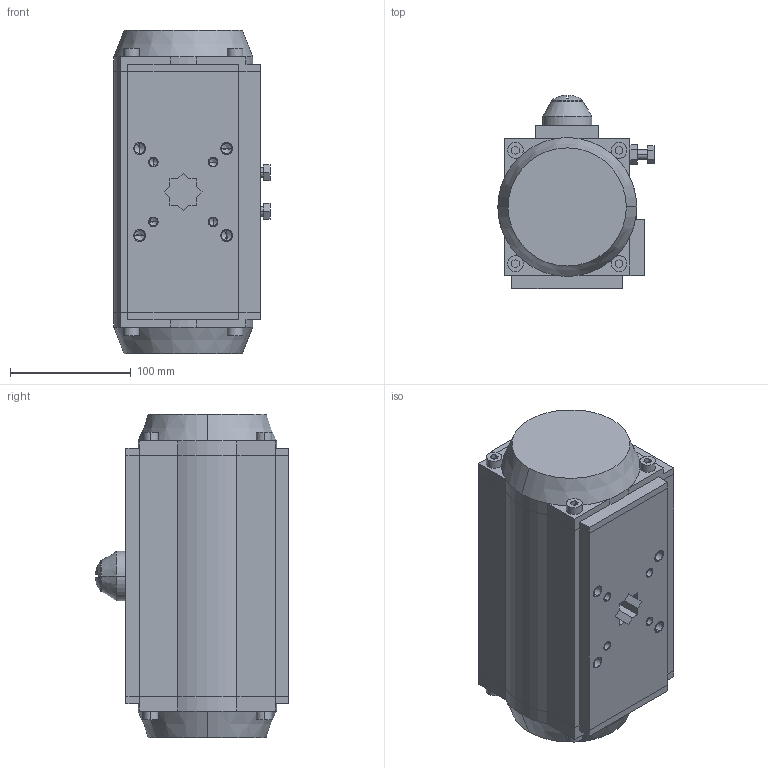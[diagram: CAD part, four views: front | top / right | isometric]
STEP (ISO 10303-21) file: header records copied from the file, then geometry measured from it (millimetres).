
FILE_DESCRIPTION((''),'2;1');
FILE_NAME('SB_PNEVMOPRIVOD_ASM','2024-01-14T',('DIMA'),(''),'PRO/ENGINEER BY PARAMETRIC TECHNOLOGY CORPORATION, 2008020','PRO/ENGINEER BY PARAMETRIC TECHNOLOGY CORPORATION, 2008020','');
FILE_SCHEMA(('CONFIG_CONTROL_DESIGN'));
Length unit declared in the file: millimetre
Products named in the file (7): KORPUS; KOLCO_25_GOST13942; KRISKA_VERX; VINT; KRISKA_LEFT; KRISKA_RIGHT; SB_PNEVMOPRIVOD_ASM
Assembly tree (6 placements, depth 2):
  SB_PNEVMOPRIVOD_ASM
    KORPUS
    KOLCO_25_GOST13942
    KRISKA_VERX
    VINT
    KRISKA_LEFT
    KRISKA_RIGHT
Bounding box: 129.5 x 160.45 x 268 mm (x, y, z)
Volume: 3555027.8 mm3; surface area: 234795.7 mm2
Topology: 6 solids, 28 shells, 436 faces, 1128 edges, 727 vertices
Faces by surface type: plane 246, cylinder 142, cone 46, sphere 2
Entity records: 13324 total; most frequent: CARTESIAN_POINT 2388, DIRECTION 2358, ORIENTED_EDGE 2088, EDGE_CURVE 1090, AXIS2_PLACEMENT_3D 831, VERTEX_POINT 727, VECTOR 696, LINE 696
